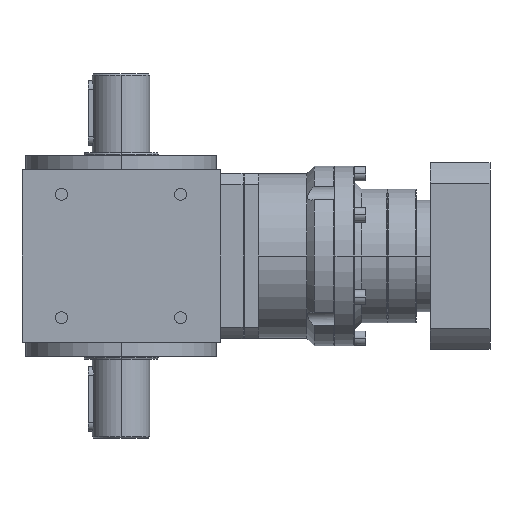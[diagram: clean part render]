
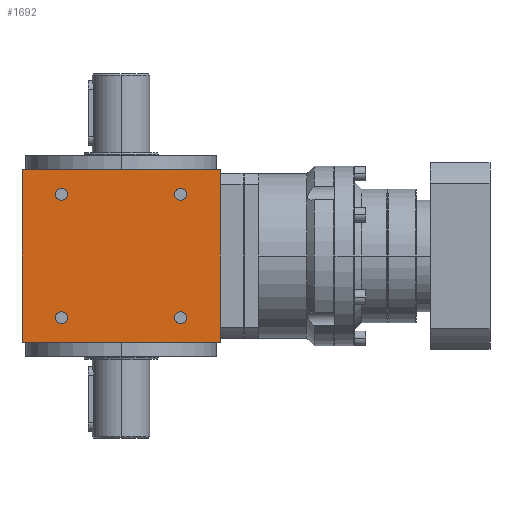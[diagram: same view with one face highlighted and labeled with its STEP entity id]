
A CAD part, left-side view. The second image highlights one B-rep face of the part: STEP entity #1692.
In plain terms, the highlighted planar face has unit normal (-1, 0, 0).
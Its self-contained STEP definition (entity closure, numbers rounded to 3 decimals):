
#9 = LINE ( 'NONE', #6248, #9459 ) ;
#13 = DIRECTION ( 'NONE',  ( -1., 0., 0. ) ) ;
#37 = CARTESIAN_POINT ( 'NONE',  ( -69., 37.3, 43. ) ) ;
#175 = EDGE_LOOP ( 'NONE', ( #6037, #7339 ) ) ;
#239 = ORIENTED_EDGE ( 'NONE', *, *, #7604, .T. ) ;
#255 = CIRCLE ( 'NONE', #756, 4.2 ) ;
#327 = LINE ( 'NONE', #3472, #7653 ) ;
#400 = AXIS2_PLACEMENT_3D ( 'NONE', #1295, #2008, #4440 ) ;
#506 = DIRECTION ( 'NONE',  ( 0., -1., 0. ) ) ;
#561 = CARTESIAN_POINT ( 'NONE',  ( -69., 69., -60. ) ) ;
#756 = AXIS2_PLACEMENT_3D ( 'NONE', #6967, #10115, #6752 ) ;
#792 = VERTEX_POINT ( 'NONE', #4691 ) ;
#1149 = EDGE_LOOP ( 'NONE', ( #8632, #3470, #9495, #2363 ) ) ;
#1150 = DIRECTION ( 'NONE',  ( 0., -1., 0. ) ) ;
#1200 = DIRECTION ( 'NONE',  ( 0., 0., 1. ) ) ;
#1295 = CARTESIAN_POINT ( 'NONE',  ( -69., 41.5, -43. ) ) ;
#1322 = EDGE_CURVE ( 'NONE', #8108, #3535, #8746, .T. ) ;
#1345 = CARTESIAN_POINT ( 'NONE',  ( -69., 69., -60. ) ) ;
#1470 = VERTEX_POINT ( 'NONE', #3477 ) ;
#1579 = VERTEX_POINT ( 'NONE', #3011 ) ;
#1692 = ADVANCED_FACE ( 'NONE', ( #6909, #8407, #6860, #10005, #6095 ), #6393, .T. ) ;
#2008 = DIRECTION ( 'NONE',  ( 1., 0., 0. ) ) ;
#2066 = CIRCLE ( 'NONE', #8963, 4.2 ) ;
#2111 = VERTEX_POINT ( 'NONE', #7049 ) ;
#2168 = DIRECTION ( 'NONE',  ( 0., -1., 0. ) ) ;
#2193 = CARTESIAN_POINT ( 'NONE',  ( -69., -41.5, -43. ) ) ;
#2253 = DIRECTION ( 'NONE',  ( 0., -1., 0. ) ) ;
#2274 = ORIENTED_EDGE ( 'NONE', *, *, #4910, .T. ) ;
#2363 = ORIENTED_EDGE ( 'NONE', *, *, #6951, .T. ) ;
#2499 = DIRECTION ( 'NONE',  ( 0., -1., 0. ) ) ;
#2695 = CARTESIAN_POINT ( 'NONE',  ( -69., 41.5, 43. ) ) ;
#2705 = DIRECTION ( 'NONE',  ( 0., -1., 0. ) ) ;
#2718 = EDGE_CURVE ( 'NONE', #2111, #2779, #9144, .T. ) ;
#2752 = CIRCLE ( 'NONE', #3741, 4.2 ) ;
#2779 = VERTEX_POINT ( 'NONE', #5335 ) ;
#2994 = CARTESIAN_POINT ( 'NONE',  ( -69., 41.5, -43. ) ) ;
#3011 = CARTESIAN_POINT ( 'NONE',  ( -69., 45.7, -43. ) ) ;
#3172 = AXIS2_PLACEMENT_3D ( 'NONE', #7903, #9435, #2499 ) ;
#3204 = DIRECTION ( 'NONE',  ( 0., -1., 0. ) ) ;
#3248 = VERTEX_POINT ( 'NONE', #4607 ) ;
#3470 = ORIENTED_EDGE ( 'NONE', *, *, #5420, .F. ) ;
#3472 = CARTESIAN_POINT ( 'NONE',  ( -69., -69., -60. ) ) ;
#3477 = CARTESIAN_POINT ( 'NONE',  ( -69., 69., -60. ) ) ;
#3535 = VERTEX_POINT ( 'NONE', #5361 ) ;
#3539 = CIRCLE ( 'NONE', #5689, 4.2 ) ;
#3700 = VECTOR ( 'NONE', #8391, 1000. ) ;
#3741 = AXIS2_PLACEMENT_3D ( 'NONE', #2695, #8958, #1150 ) ;
#3764 = DIRECTION ( 'NONE',  ( 1., 0., 0. ) ) ;
#4423 = EDGE_LOOP ( 'NONE', ( #2274, #8481 ) ) ;
#4440 = DIRECTION ( 'NONE',  ( 0., -1., 0. ) ) ;
#4459 = DIRECTION ( 'NONE',  ( 1., 0., 0. ) ) ;
#4607 = CARTESIAN_POINT ( 'NONE',  ( -69., 45.7, 43. ) ) ;
#4635 = VERTEX_POINT ( 'NONE', #5724 ) ;
#4691 = CARTESIAN_POINT ( 'NONE',  ( -69., -69., 60. ) ) ;
#4910 = EDGE_CURVE ( 'NONE', #2779, #2111, #3539, .T. ) ;
#5106 = EDGE_CURVE ( 'NONE', #9162, #792, #327, .T. ) ;
#5127 = AXIS2_PLACEMENT_3D ( 'NONE', #2994, #5418, #2168 ) ;
#5151 = AXIS2_PLACEMENT_3D ( 'NONE', #5581, #13, #8711 ) ;
#5274 = EDGE_LOOP ( 'NONE', ( #5530, #5602 ) ) ;
#5335 = CARTESIAN_POINT ( 'NONE',  ( -69., -45.7, -43. ) ) ;
#5361 = CARTESIAN_POINT ( 'NONE',  ( -69., -37.3, 43. ) ) ;
#5397 = CARTESIAN_POINT ( 'NONE',  ( -69., -45.7, 43. ) ) ;
#5418 = DIRECTION ( 'NONE',  ( 1., 0., 0. ) ) ;
#5420 = EDGE_CURVE ( 'NONE', #4635, #792, #9, .T. ) ;
#5466 = CARTESIAN_POINT ( 'NONE',  ( -69., 37.3, -43. ) ) ;
#5530 = ORIENTED_EDGE ( 'NONE', *, *, #1322, .T. ) ;
#5581 = CARTESIAN_POINT ( 'NONE',  ( -69., 69., -60. ) ) ;
#5602 = ORIENTED_EDGE ( 'NONE', *, *, #8874, .T. ) ;
#5689 = AXIS2_PLACEMENT_3D ( 'NONE', #2193, #4459, #2253 ) ;
#5724 = CARTESIAN_POINT ( 'NONE',  ( -69., 69., 60. ) ) ;
#5725 = EDGE_CURVE ( 'NONE', #1470, #4635, #9876, .T. ) ;
#5811 = EDGE_CURVE ( 'NONE', #7052, #1579, #6483, .T. ) ;
#6037 = ORIENTED_EDGE ( 'NONE', *, *, #5811, .T. ) ;
#6095 = FACE_OUTER_BOUND ( 'NONE', #1149, .T. ) ;
#6248 = CARTESIAN_POINT ( 'NONE',  ( -69., 0., 60. ) ) ;
#6393 = PLANE ( 'NONE',  #5151 ) ;
#6483 = CIRCLE ( 'NONE', #400, 4.2 ) ;
#6530 = EDGE_LOOP ( 'NONE', ( #8912, #239 ) ) ;
#6596 = CIRCLE ( 'NONE', #5127, 4.2 ) ;
#6654 = DIRECTION ( 'NONE',  ( 1., 0., 0. ) ) ;
#6752 = DIRECTION ( 'NONE',  ( 0., -1., 0. ) ) ;
#6855 = EDGE_CURVE ( 'NONE', #1579, #7052, #6596, .T. ) ;
#6860 = FACE_BOUND ( 'NONE', #4423, .T. ) ;
#6909 = FACE_BOUND ( 'NONE', #175, .T. ) ;
#6951 = EDGE_CURVE ( 'NONE', #1470, #9162, #7568, .T. ) ;
#6967 = CARTESIAN_POINT ( 'NONE',  ( -69., 41.5, 43. ) ) ;
#7049 = CARTESIAN_POINT ( 'NONE',  ( -69., -37.3, -43. ) ) ;
#7052 = VERTEX_POINT ( 'NONE', #5466 ) ;
#7339 = ORIENTED_EDGE ( 'NONE', *, *, #6855, .T. ) ;
#7406 = VERTEX_POINT ( 'NONE', #37 ) ;
#7568 = LINE ( 'NONE', #561, #10021 ) ;
#7604 = EDGE_CURVE ( 'NONE', #3248, #7406, #255, .T. ) ;
#7653 = VECTOR ( 'NONE', #1200, 1000. ) ;
#7903 = CARTESIAN_POINT ( 'NONE',  ( -69., -41.5, 43. ) ) ;
#8108 = VERTEX_POINT ( 'NONE', #5397 ) ;
#8158 = CARTESIAN_POINT ( 'NONE',  ( -69., -41.5, -43. ) ) ;
#8382 = EDGE_CURVE ( 'NONE', #7406, #3248, #2752, .T. ) ;
#8391 = DIRECTION ( 'NONE',  ( 0., 0., 1. ) ) ;
#8407 = FACE_BOUND ( 'NONE', #5274, .T. ) ;
#8441 = DIRECTION ( 'NONE',  ( 0., -1., 0. ) ) ;
#8481 = ORIENTED_EDGE ( 'NONE', *, *, #2718, .T. ) ;
#8632 = ORIENTED_EDGE ( 'NONE', *, *, #5106, .T. ) ;
#8711 = DIRECTION ( 'NONE',  ( 0., -1., 0. ) ) ;
#8746 = CIRCLE ( 'NONE', #3172, 4.2 ) ;
#8842 = CARTESIAN_POINT ( 'NONE',  ( -69., -69., -60. ) ) ;
#8874 = EDGE_CURVE ( 'NONE', #3535, #8108, #2066, .T. ) ;
#8912 = ORIENTED_EDGE ( 'NONE', *, *, #8382, .T. ) ;
#8958 = DIRECTION ( 'NONE',  ( 1., 0., 0. ) ) ;
#8963 = AXIS2_PLACEMENT_3D ( 'NONE', #10085, #3764, #8441 ) ;
#9144 = CIRCLE ( 'NONE', #9482, 4.2 ) ;
#9162 = VERTEX_POINT ( 'NONE', #8842 ) ;
#9435 = DIRECTION ( 'NONE',  ( 1., 0., 0. ) ) ;
#9459 = VECTOR ( 'NONE', #3204, 1000. ) ;
#9482 = AXIS2_PLACEMENT_3D ( 'NONE', #8158, #6654, #2705 ) ;
#9495 = ORIENTED_EDGE ( 'NONE', *, *, #5725, .F. ) ;
#9876 = LINE ( 'NONE', #1345, #3700 ) ;
#10005 = FACE_BOUND ( 'NONE', #6530, .T. ) ;
#10021 = VECTOR ( 'NONE', #506, 1000. ) ;
#10085 = CARTESIAN_POINT ( 'NONE',  ( -69., -41.5, 43. ) ) ;
#10115 = DIRECTION ( 'NONE',  ( 1., 0., 0. ) ) ;
